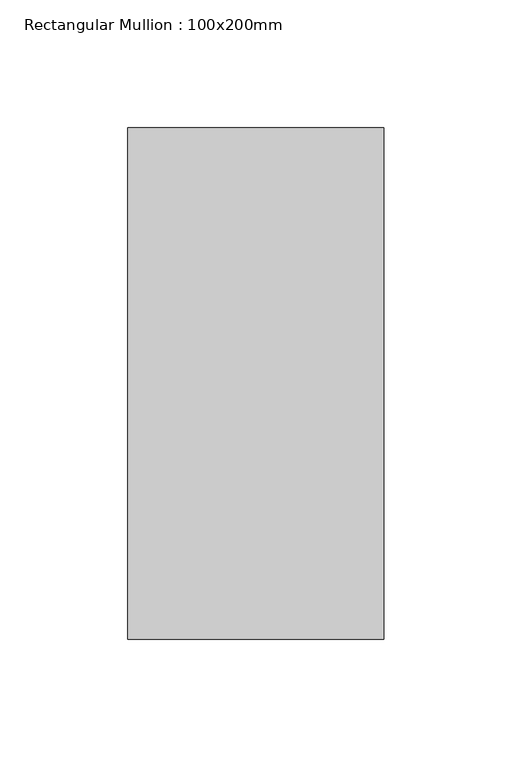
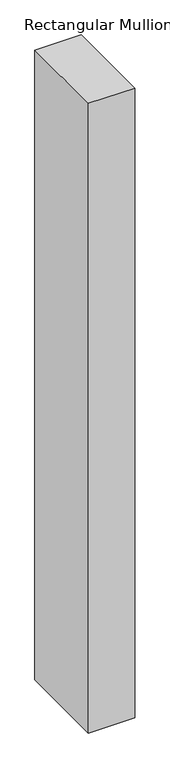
"""IFC4 building model written with IfcOpenShell, lengths in millimetres: member geometry, Rectangular Mullion : 100x200mm."""

from ifc_helpers import new_model, si_unit, frame, origin, place, context, project, spatial, polyline, outline, extrude, source, transform, mapped, element, save


def rectangular_mullion_100x200mm_3c8d4112(model_context):
    return source(origin(), model_context, "Body", "SweptSolid", [
        extrude(outline(polyline([(0.0, 100.0), (0.0, -100.0), (-100.0, -100.0), (-100.0, 100.0), (0.0, 100.0)])), frame((0.0, 0.0, -1438.3017092), z_axis=(0.0, 0.0, 1.0), x_axis=(1.0, 0.0, 0.0)), (0.0, 0.0, 1.0), 1438.3017092),
    ])


if __name__ == "__main__":
    model = new_model("IFC4")
    model_context = context("Model", 3, world=origin())
    ifc_project = project(units=[si_unit("LENGTHUNIT", "METRE", prefix="MILLI")], contexts=[model_context])
    site = spatial("IfcSite", under=ifc_project)
    building = spatial("IfcBuilding", under=site)
    placement = place(None, origin())
    rectangular_mullion_100x200mm_shape = rectangular_mullion_100x200mm_3c8d4112(model_context)
    element("IfcMember", 1, ObjectType="Rectangular Mullion : 100x200mm", at=placement, inside=building, context=model_context, shape_type="MappedRepresentation", body=[
        mapped(rectangular_mullion_100x200mm_shape, transform((0.0, 0.0, 0.0), x_axis=(1.0, 0.0, 0.0), y_axis=(0.0, 1.0, 0.0), z_axis=(0.0, 0.0, 1.0))),
    ])
    save(model, "model.ifc")
